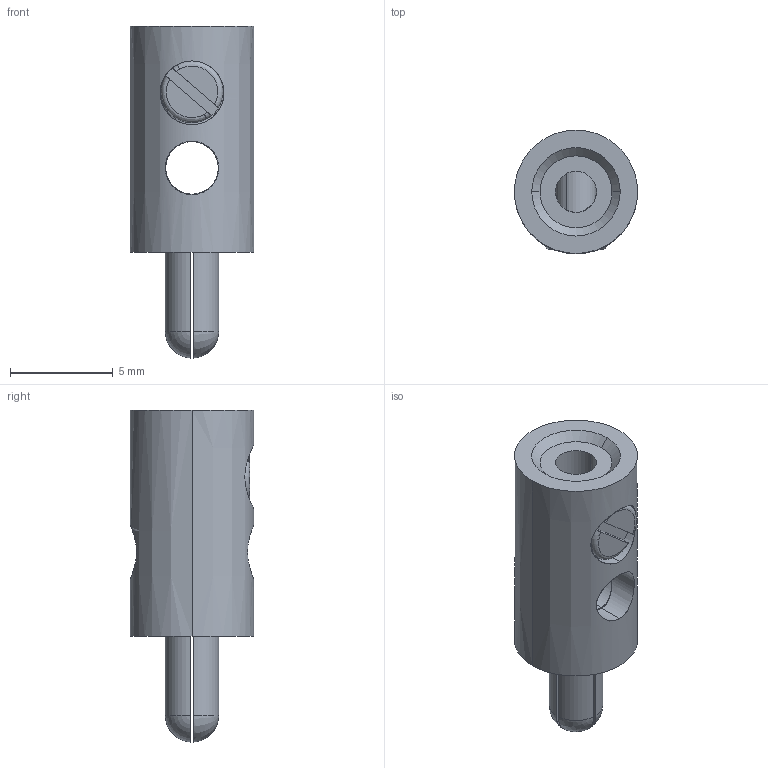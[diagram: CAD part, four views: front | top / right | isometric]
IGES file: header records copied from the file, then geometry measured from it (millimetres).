
Start section: START RECORD GO HERE.
Global section: file name: Zwergstecker.igs; native system: IBM CATIA IGES - CATIA Version 5 Release 19 ; preprocessor: CATIA Version 5 Release 19 ; author: Administrator; organization: M0000815; date: 20230220.210746; units: millimetre
Bounding box: 6 x 6 x 16.15 mm (x, y, z)
Surface area: 668.5 mm2 (no closed solid volume)
Topology: 0 solids, 0 shells, 56 faces, 256 edges, 256 vertices
Faces by surface type: revolution 36, plane 20
